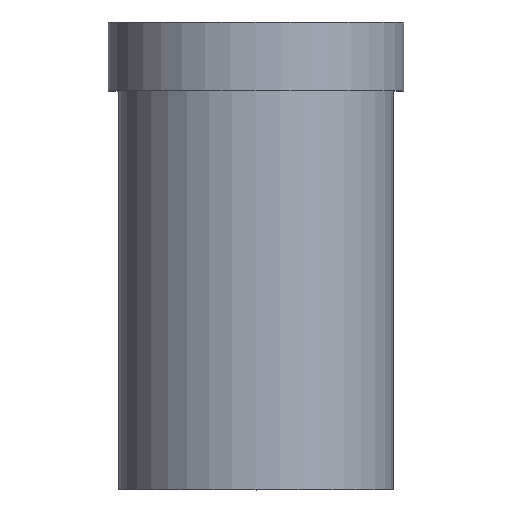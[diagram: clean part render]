
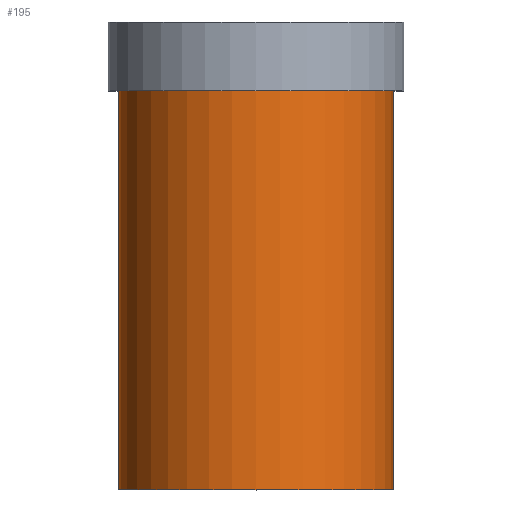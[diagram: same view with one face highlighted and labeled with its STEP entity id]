
A CAD part, top view. The second image highlights one B-rep face of the part: STEP entity #195.
In plain terms, the highlighted cylindrical face has radius 40 mm (diameter 80 mm), a full revolution.
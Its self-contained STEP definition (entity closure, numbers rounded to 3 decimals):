
#32=ORIENTED_EDGE('',*,*,#50,.T.);
#33=ORIENTED_EDGE('',*,*,#49,.F.);
#49=EDGE_CURVE('',#59,#59,#69,.T.);
#50=EDGE_CURVE('',#60,#60,#70,.T.);
#59=VERTEX_POINT('',#280);
#60=VERTEX_POINT('',#283);
#69=CIRCLE('',#213,40.);
#70=CIRCLE('',#215,40.);
#82=EDGE_LOOP('',(#32));
#83=EDGE_LOOP('',(#33));
#102=FACE_BOUND('',#82,.T.);
#103=FACE_BOUND('',#83,.T.);
#117=CYLINDRICAL_SURFACE('',#214,40.);
#195=ADVANCED_FACE('',(#102,#103),#117,.T.);
#213=AXIS2_PLACEMENT_3D('',#279,#241,#242);
#214=AXIS2_PLACEMENT_3D('',#281,#243,#244);
#215=AXIS2_PLACEMENT_3D('',#282,#245,#246);
#241=DIRECTION('',(0.,-1.,0.));
#242=DIRECTION('',(0.,0.,-1.));
#243=DIRECTION('',(0.,-1.,0.));
#244=DIRECTION('',(0.,0.,-1.));
#245=DIRECTION('',(0.,-1.,0.));
#246=DIRECTION('',(0.,0.,-1.));
#279=CARTESIAN_POINT('',(0.,0.,0.));
#280=CARTESIAN_POINT('',(0.,0.,-40.));
#281=CARTESIAN_POINT('',(0.,0.,0.));
#282=CARTESIAN_POINT('',(0.,116.,0.));
#283=CARTESIAN_POINT('',(0.,116.,-40.));
